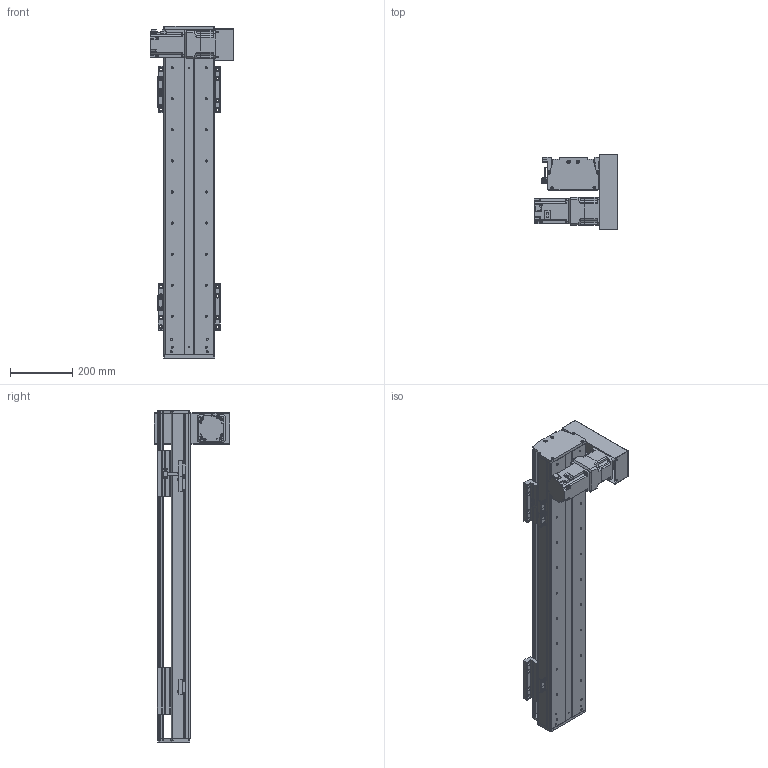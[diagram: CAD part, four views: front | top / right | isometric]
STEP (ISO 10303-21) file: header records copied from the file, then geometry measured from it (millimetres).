
FILE_DESCRIPTION(/* description */ (''),/* implementation_level */ '2;1');
FILE_NAME(/* name */ 'C:\Users\PC\Desktop\3D도면\STEP\새 폴더\DSB165-DR7G-W0700-L.stp',/* time_stamp */ '2018-06-25T15:56:49+09:00',/* author */ ('PC'),/* organization */ (''),/* preprocessor_version */ 'ST-DEVELOPER v16.5',/* originating_system */ 'Autodesk Inventor 2017',/* authorisation */ '');
FILE_SCHEMA (('AUTOMOTIVE_DESIGN { 1 0 10303 214 3 1 1 }'));
Length unit declared in the file: millimetre
Products named in the file (12): DSB165-DL7G-W0700-R_MIR; DSB165-BASE-L_MIR; hg-kr73__MIR; ab0901-p0401300102_MIR; 11-DSB165 BELT COVER_MIR; 12-DSB165-REAR COVER_MIR; 14-DSB165-FRONT COVER_MIR; DSB165-UP COVER_MIR; DSB165-TABLE(MSB20S)_MIR; DSR165-SENSOR DOG_MIR; SENSOR BRACKET(EE-SX674A)_MIR; pm-y65_step_MIR
Assembly tree (16 placements, depth 2):
  DSB165-DL7G-W0700-R_MIR
    DSB165-BASE-L_MIR
    hg-kr73__MIR
    ab0901-p0401300102_MIR
    11-DSB165 BELT COVER_MIR
    12-DSB165-REAR COVER_MIR
    14-DSB165-FRONT COVER_MIR
    DSB165-UP COVER_MIR
    DSB165-TABLE(MSB20S)_MIR  x2
    DSR165-SENSOR DOG_MIR
    pm-y65_step_MIR  x3
    SENSOR BRACKET(EE-SX674A)_MIR  x3
Bounding box: 270 x 242 x 1070 mm (x, y, z)
Volume: 7496807.1 mm3; surface area: 1727393.7 mm2
Topology: 17 solids, 17 shells, 1653 faces, 4444 edges, 2930 vertices
Faces by surface type: plane 921, cylinder 612, cone 108, sphere 8, torus 4
Full cylindrical faces by diameter (mm): 2.459 x20, 3.5 x6, 4.134 x42, 4.5 x18, 5 x27, 5.5 x36, 5.9 x4, 6 x4, 6.6 x14, 6.647 x36, 6.8 x1, 7 x4, 7.6 x4, 8.4 x1, 8.5 x24, 8.7 x1, 9.5 x32, 11 x6, 14 x16, 19 x1, 22 x1, 24 x1, 25 x1, 28 x1, 67 x1, 70 x2, 80 x1
Entity records: 35836 total; most frequent: DIRECTION 6202, CARTESIAN_POINT 6027, ORIENTED_EDGE 5506, EDGE_CURVE 2753, AXIS2_PLACEMENT_3D 2271, VERTEX_POINT 1958, EDGE_LOOP 1703, LINE 1660
